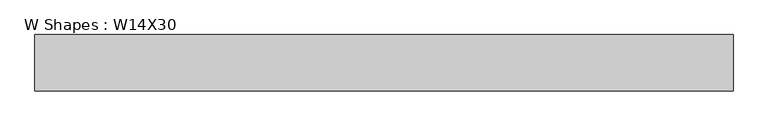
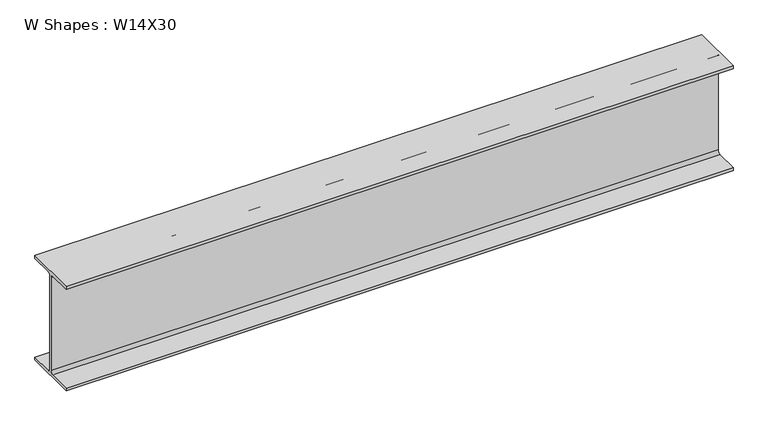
"""IFC4 building model written with IfcOpenShell, lengths in millimetres: beam geometry, W Shapes : W14X30."""

import ifcopenshell
import ifcopenshell.guid

model = None  # the IFC model being written
_history = None  # IfcOwnerHistory: only IFC2X3 demands one
_inside = {}  # id of a spatial element -> (the spatial element, [elements in it])
_under = {}  # id of a project, library or spatial element -> (it, [spatial elements below it])
_declared = {}  # id of a project -> (the project, [libraries it declares])
_typed = {}  # id of a type object -> (the type object, [elements of that type])
_made_of = {}  # id of a material, layer set ... -> (it, [elements and type objects made of it])


def new_model(schema):
    """Start an empty IFC model of exactly this schema.

    Asked for "IFC4X3", IfcOpenShell would pick the latest addendum, in which some entities
    have other attributes; the version numbers below select the first issue.
    IFC2X3 requires an IfcOwnerHistory on every rooted entity: one is made here for all.
    """
    global model, _history
    if schema == "IFC4X3":
        model = ifcopenshell.file(schema_version=(4, 3, 0, 0))
    else:
        model = ifcopenshell.file(schema=schema)
    _inside.clear()
    _under.clear()
    _declared.clear()
    _typed.clear()
    _made_of.clear()
    _history = None
    if model.schema == "IFC2X3":
        org = make("IfcOrganization", Name="unknown")
        user = make(
            "IfcPersonAndOrganization",
            ThePerson=make("IfcPerson", FamilyName="unknown"),
            TheOrganization=org,
        )
        app = make(
            "IfcApplication",
            ApplicationDeveloper=org,
            Version="unknown",
            ApplicationFullName="unknown",
            ApplicationIdentifier="unknown",
        )
        _history = make(
            "IfcOwnerHistory",
            OwningUser=user,
            OwningApplication=app,
            ChangeAction="ADDED",
            CreationDate=0,
        )
    return model


def make(cls, **values):
    """One entity of the class cls with the attributes given. An attribute that is None is left unset."""
    return model.create_entity(
        cls, **{name: value for name, value in values.items() if value is not None}
    )


def rooted(cls, **values):
    """An entity with a GlobalId (a new one), such as an element, a storey or a relation."""
    return make(cls, GlobalId=ifcopenshell.guid.new(), OwnerHistory=_history, **values)


def si_unit(unit_type, name, prefix=None):
    """IfcSIUnit, for example si_unit("LENGTHUNIT", "METRE", prefix="MILLI")."""
    return make("IfcSIUnit", UnitType=unit_type, Prefix=prefix, Name=name)


def assignment(units):
    """IfcUnitAssignment: the units of a project."""
    return None if units is None else make("IfcUnitAssignment", Units=units)


def point(xyz):
    """IfcCartesianPoint."""
    return None if xyz is None else make("IfcCartesianPoint", Coordinates=xyz)


def direction(xyz):
    """IfcDirection."""
    return None if xyz is None else make("IfcDirection", DirectionRatios=xyz)


def frame(location, z_axis=None, x_axis=None):
    """IfcAxis2Placement3D, a coordinate frame: its origin and axes. An axis left out is left unset."""
    return make(
        "IfcAxis2Placement3D",
        Location=point(location),
        Axis=direction(z_axis),
        RefDirection=direction(x_axis),
    )


def frame_2d(location, x_axis=None):
    """IfcAxis2Placement2D, a coordinate frame in the plane: its origin and x axis."""
    return make(
        "IfcAxis2Placement2D", Location=point(location), RefDirection=direction(x_axis)
    )


def origin():
    """The frame at (0, 0, 0) with its axes left unset."""
    return frame((0.0, 0.0, 0.0))


def place(relative_to, where):
    """IfcLocalPlacement: puts the frame where relative to a parent placement (None: the world)."""
    return make(
        "IfcLocalPlacement", PlacementRelTo=relative_to, RelativePlacement=where
    )


def context(
    kind, dimensions, precision=None, world=None, true_north=None, identifier=None
):
    """IfcGeometricRepresentationContext, for example the 3D "Model" context."""
    return make(
        "IfcGeometricRepresentationContext",
        ContextIdentifier=identifier,
        ContextType=kind,
        CoordinateSpaceDimension=dimensions,
        Precision=precision,
        WorldCoordinateSystem=world,
        TrueNorth=true_north,
    )


def project(units=None, contexts=None):
    """IfcProject with its units and contexts."""
    return rooted(
        "IfcProject",
        Name="project",
        RepresentationContexts=contexts,
        UnitsInContext=assignment(units),
    )


def spatial(cls, under=None, at=None, **own):
    """A site, building, storey or space (cls), placed at a placement, below another one or the project."""
    s = rooted(cls, ObjectPlacement=at, **own)
    if under is not None:
        _under.setdefault(under.id(), (under, []))[1].append(s)
    return s


def polyline(points):
    """IfcPolyline through the points."""
    return make("IfcPolyline", Points=[point(p) for p in points])


def circle_curve(where, radius):
    """IfcCircle in the frame where."""
    return make("IfcCircle", Position=where, Radius=radius)


def trimmed(basis, trim1, trim2, sense, master):
    """IfcTrimmedCurve: the piece of a basis curve between two trims."""
    return make(
        "IfcTrimmedCurve",
        BasisCurve=basis,
        Trim1=trim1,
        Trim2=trim2,
        SenseAgreement=sense,
        MasterRepresentation=master,
    )


def segment(curve, same_sense, transition):
    """IfcCompositeCurveSegment."""
    return make(
        "IfcCompositeCurveSegment",
        Transition=transition,
        SameSense=same_sense,
        ParentCurve=curve,
    )


def composite_curve(segments, self_intersect=None):
    """IfcCompositeCurve: segments joined end to end."""
    return make("IfcCompositeCurve", Segments=segments, SelfIntersect=self_intersect)


def outline(outer, holes=None, kind="AREA"):
    """IfcArbitraryClosedProfileDef: a profile drawn as a closed curve; with holes, ...WithVoids."""
    if holes is None:
        return make("IfcArbitraryClosedProfileDef", ProfileType=kind, OuterCurve=outer)
    return make(
        "IfcArbitraryProfileDefWithVoids",
        ProfileType=kind,
        OuterCurve=outer,
        InnerCurves=holes,
    )


def extrude(swept, where, along, depth):
    """IfcExtrudedAreaSolid: the profile swept, set in the frame where, extruded along a direction by depth."""
    return make(
        "IfcExtrudedAreaSolid",
        SweptArea=swept,
        Position=where,
        ExtrudedDirection=direction(along),
        Depth=depth,
    )


def shape(context_of_items, identifier, shape_type, items):
    """IfcShapeRepresentation: the items that make up one representation, for example the "Body"."""
    return make(
        "IfcShapeRepresentation",
        ContextOfItems=context_of_items,
        RepresentationIdentifier=identifier,
        RepresentationType=shape_type,
        Items=items,
    )


def source(mapping_origin, context_of_items, identifier, shape_type, items):
    """IfcRepresentationMap: a shape defined once, which mapped items show again and again."""
    return make(
        "IfcRepresentationMap",
        MappingOrigin=mapping_origin,
        MappedRepresentation=shape(context_of_items, identifier, shape_type, items),
    )


def transform(
    local_origin,
    x_axis=None,
    y_axis=None,
    z_axis=None,
    scale=None,
    scale2=None,
    scale3=None,
    uniform=True,
):
    """IfcCartesianTransformationOperator3D, or its non-uniform kind. x_axis, y_axis, z_axis: its Axis1, 2, 3."""
    if uniform:
        return make(
            "IfcCartesianTransformationOperator3D",
            Axis1=direction(x_axis),
            Axis2=direction(y_axis),
            LocalOrigin=point(local_origin),
            Scale=scale,
            Axis3=direction(z_axis),
        )
    return make(
        "IfcCartesianTransformationOperator3DnonUniform",
        Axis1=direction(x_axis),
        Axis2=direction(y_axis),
        LocalOrigin=point(local_origin),
        Scale=scale,
        Axis3=direction(z_axis),
        Scale2=scale2,
        Scale3=scale3,
    )


def mapped(mapping_source, mapping_target):
    """IfcMappedItem: shows the shape of a source again, moved by a transform."""
    return make(
        "IfcMappedItem", MappingSource=mapping_source, MappingTarget=mapping_target
    )


def made_of(thing, what):
    """Note that an element or type object is made of a material, layer set ...; save() writes the relation."""
    if what is not None:
        _made_of.setdefault(what.id(), (what, []))[1].append(thing)
    return thing


def element(
    cls,
    number,
    at=None,
    inside=None,
    cuts=None,
    type_object=None,
    material=None,
    context=None,
    identifier="Body",
    shape_type=None,
    held_by="IfcProductDefinitionShape",
    body=None,
    shapes=None,
    **own,
):
    """One element of the class cls, such as IfcWall. Its Tag is "e" and its number.

    at: its placement. inside: the storey or other place that contains it. cuts: it is an
    opening in that element (IfcRelVoidsElement). A single representation is given by context,
    identifier, shape_type and body (its items); several are given by shapes. held_by: the class
    of the entity that holds the representations. save() writes the other relations.
    """
    e = rooted(cls, Tag="e%d" % number, ObjectPlacement=at, **own)
    if body is not None:
        shapes = [shape(context, identifier, shape_type, body)]
    if shapes is not None:
        e.Representation = make(held_by, Representations=shapes)
    if inside is not None:
        _inside.setdefault(inside.id(), (inside, []))[1].append(e)
    if cuts is not None:
        rooted(
            "IfcRelVoidsElement", RelatingBuildingElement=cuts, RelatedOpeningElement=e
        )
    if type_object is not None:
        _typed.setdefault(type_object.id(), (type_object, []))[1].append(e)
    return made_of(e, material)


def aggregate(whole, parts):
    """IfcRelAggregates: a whole, such as a stair, and the parts it consists of."""
    return rooted("IfcRelAggregates", RelatingObject=whole, RelatedObjects=parts)


def save(model, path):
    """Write the relations noted so far, then the file.

    IfcRelAggregates (storeys below a building ...), IfcRelContainedInSpatialStructure (elements
    in a storey), IfcRelDefinesByType, IfcRelAssociatesMaterial and IfcRelDeclares: one each for
    every whole, place, type object, material and project.
    """
    for whole, parts in _under.values():
        aggregate(whole, parts)
    for where, things in _inside.values():
        rooted(
            "IfcRelContainedInSpatialStructure",
            RelatedElements=things,
            RelatingStructure=where,
        )
    for kind, things in _typed.values():
        rooted("IfcRelDefinesByType", RelatedObjects=things, RelatingType=kind)
    for what, things in _made_of.values():
        rooted("IfcRelAssociatesMaterial", RelatedObjects=things, RelatingMaterial=what)
    for by, libraries in _declared.values():
        rooted("IfcRelDeclares", RelatingContext=by, RelatedDefinitions=libraries)
    model.write(path)


def w_shapes_w14x30_cc53289b(model_context):
    return source(origin(), model_context, "Body", "SweptSolid", [
        extrude(outline(composite_curve([segment(polyline([(85.471, -165.481), (85.471, -175.26), (-85.471, -175.26), (-85.471, -165.481), (-13.589, -165.481)]), True, "CONTINUOUS"), segment(trimmed(circle_curve(frame_2d((-13.589, -155.321)), 10.16), [point((-13.589, -165.481))], [point((-3.429, -155.321))], True, "CARTESIAN"), True, "CONTINUOUS"), segment(polyline([(-3.429, -155.321), (-3.429, 155.321)]), True, "CONTINUOUS"), segment(trimmed(circle_curve(frame_2d((-13.589, 155.321)), 10.16), [point((-3.429, 155.321))], [point((-13.589, 165.481))], True, "CARTESIAN"), True, "CONTINUOUS"), segment(polyline([(-13.589, 165.481), (-85.471, 165.481), (-85.471, 175.26), (85.471, 175.26), (85.471, 165.481), (13.589, 165.481)]), True, "CONTINUOUS"), segment(trimmed(circle_curve(frame_2d((13.589, 155.321)), 10.16), [point((13.589, 165.481))], [point((3.429, 155.321))], True, "CARTESIAN"), True, "CONTINUOUS"), segment(polyline([(3.429, 155.321), (3.429, -155.321)]), True, "CONTINUOUS"), segment(trimmed(circle_curve(frame_2d((13.589, -155.321)), 10.16), [point((3.429, -155.321))], [point((13.589, -165.481))], True, "CARTESIAN"), True, "CONTINUOUS"), segment(polyline([(13.589, -165.481), (85.471, -165.481)]), True, "CONTINUOUS")], self_intersect=False)), frame((-1067.6147122, 0.0, 0.0), z_axis=(1.0, 0.0, 0.0), x_axis=(0.0, 1.0, 0.0)), (0.0, 0.0, 1.0), 2112.737227),
    ])


if __name__ == "__main__":
    model = new_model("IFC4")
    model_context = context("Model", 3, world=origin())
    ifc_project = project(units=[si_unit("LENGTHUNIT", "METRE", prefix="MILLI")], contexts=[model_context])
    site = spatial("IfcSite", under=ifc_project)
    building = spatial("IfcBuilding", under=site)
    placement = place(None, origin())
    w_shapes_w14x30_shape = w_shapes_w14x30_cc53289b(model_context)
    element("IfcBeam", 1, ObjectType="W Shapes : W14X30", at=placement, inside=building, context=model_context, shape_type="MappedRepresentation", body=[
        mapped(w_shapes_w14x30_shape, transform((0.0, 0.0, 0.0), x_axis=(1.0, 0.0, 0.0), y_axis=(0.0, 1.0, 0.0), z_axis=(0.0, 0.0, 1.0))),
    ])
    save(model, "model.ifc")
